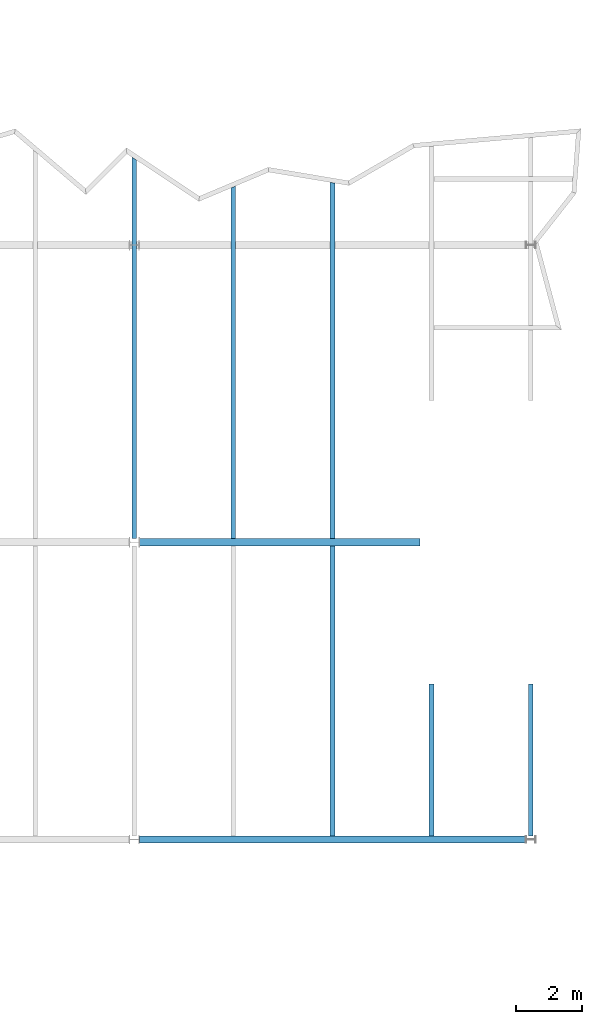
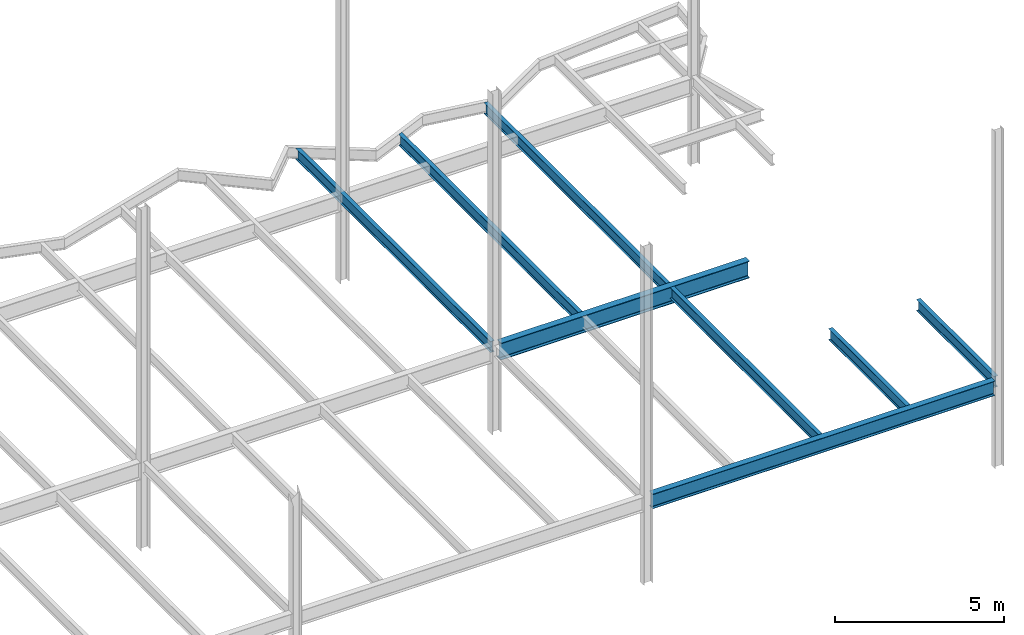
# One storey, part 23 of 26: 8 beams.
"""IFC2X3 building model written with IfcOpenShell, lengths in millimetres."""

from ifc_helpers import new_model, si_unit, origin, place, context, project, spatial, faceted_brep, material, element, save


model = new_model("IFC2X3")

# Units and contexts
context_of_model = context(None, 3, precision=1e-05, world=origin())
ifc_project = project(units=[si_unit("LENGTHUNIT", "METRE", prefix="MILLI")], contexts=[context_of_model])

# Building, storey
building = spatial("IfcBuilding", under=ifc_project, Name="Building", CompositionType="ELEMENT")
storey = spatial("IfcBuildingStorey", under=building, Name="FL4-FRM", CompositionType="ELEMENT")

# Beams
ifc_material_1 = material(Name="A992")
beam_1_placement = place(None, origin())
element("IfcBeam", 1, at=beam_1_placement, inside=storey, material=ifc_material_1, Name="B243", context=context_of_model, shape_type="Brep", body=[
    faceted_brep([(78070.0, 9104.5, 12974.0), (77930.0, 9104.5, 12974.0), (77930.0, 17885.5, 12974.0), (78070.0, 17885.5, 12974.0), (77930.0, 9104.5, 12982.8), (77930.0, 17885.5, 12982.8), (77986.6, 9104.5, 12982.8), (77986.6, 17885.5, 12982.8), (77989.2, 9104.5, 12983.1), (77989.2, 17885.5, 12983.1), (77991.7, 9104.5, 12984.2), (77991.7, 17885.5, 12984.2), (77993.8, 9104.5, 12985.8), (77993.8, 17885.5, 12985.8), (77995.4, 9104.5, 12987.9), (77995.4, 17885.5, 12987.9), (77996.5, 9104.5, 12990.4), (77996.5, 17885.5, 12990.4), (77996.8, 9104.5, 12993.0), (77996.8, 17885.5, 12993.0), (77996.8, 9104.5, 13354.0), (77996.8, 17885.5, 13354.0), (77996.5, 9104.5, 13356.6), (77996.5, 17885.5, 13356.6), (77995.4, 9104.5, 13359.1), (77995.4, 17885.5, 13359.1), (77993.8, 9104.5, 13361.2), (77993.8, 17885.5, 13361.2), (77991.7, 9104.5, 13362.8), (77991.7, 17885.5, 13362.8), (77989.2, 9104.5, 13363.9), (77989.2, 17885.5, 13363.9), (77986.6, 9104.5, 13364.2), (77986.6, 17885.5, 13364.2), (77930.0, 9104.5, 13364.2), (77930.0, 17885.5, 13364.2), (77930.0, 9104.5, 13373.0), (77930.0, 17885.5, 13373.0), (78070.0, 9104.5, 13373.0), (78070.0, 17885.5, 13373.0), (78070.0, 9104.5, 13364.2), (78070.0, 17885.5, 13364.2), (78013.4, 9104.5, 13364.2), (78013.4, 17885.5, 13364.2), (78010.8, 9104.5, 13363.9), (78010.8, 17885.5, 13363.9), (78008.3, 9104.5, 13362.8), (78008.3, 17885.5, 13362.8), (78006.2, 9104.5, 13361.2), (78006.2, 17885.5, 13361.2), (78004.6, 9104.5, 13359.1), (78004.6, 17885.5, 13359.1), (78003.5, 9104.5, 13356.6), (78003.5, 17885.5, 13356.6), (78003.2, 9104.5, 13354.0), (78003.2, 17885.5, 13354.0), (78003.2, 9104.5, 12993.0), (78003.2, 17885.5, 12993.0), (78003.5, 9104.5, 12990.4), (78003.5, 17885.5, 12990.4), (78004.6, 9104.5, 12987.9), (78004.6, 17885.5, 12987.9), (78006.2, 9104.5, 12985.8), (78006.2, 17885.5, 12985.8), (78008.3, 9104.5, 12984.2), (78008.3, 17885.5, 12984.2), (78010.8, 9104.5, 12983.1), (78010.8, 17885.5, 12983.1), (78013.4, 9104.5, 12982.8), (78013.4, 17885.5, 12982.8), (78070.0, 9104.5, 12982.8), (78070.0, 17885.5, 12982.8)], [[[0, 1, 2, 3]], [[1, 4, 5, 2]], [[4, 6, 7, 5]], [[6, 8, 9, 7]], [[8, 10, 11, 9]], [[10, 12, 13, 11]], [[12, 14, 15, 13]], [[14, 16, 17, 15]], [[16, 18, 19, 17]], [[18, 20, 21, 19]], [[20, 22, 23, 21]], [[22, 24, 25, 23]], [[24, 26, 27, 25]], [[26, 28, 29, 27]], [[28, 30, 31, 29]], [[30, 32, 33, 31]], [[32, 34, 35, 33]], [[34, 36, 37, 35]], [[36, 38, 39, 37]], [[38, 40, 41, 39]], [[40, 42, 43, 41]], [[42, 44, 45, 43]], [[44, 46, 47, 45]], [[46, 48, 49, 47]], [[48, 50, 51, 49]], [[50, 52, 53, 51]], [[52, 54, 55, 53]], [[54, 56, 57, 55]], [[56, 58, 59, 57]], [[58, 60, 61, 59]], [[60, 62, 63, 61]], [[62, 64, 65, 63]], [[64, 66, 67, 65]], [[66, 68, 69, 67]], [[68, 70, 71, 69]], [[70, 0, 3, 71]], [[0, 70, 68, 66, 64, 62, 60, 58, 56, 54, 52, 50, 48, 46, 44, 42, 40, 38, 36, 34, 32, 30, 28, 26, 24, 22, 20, 18, 16, 14, 12, 10, 8, 6, 4, 1]], [[3, 2, 5, 7, 9, 11, 13, 15, 17, 19, 21, 23, 25, 27, 29, 31, 33, 35, 37, 39, 41, 43, 45, 47, 49, 51, 53, 55, 57, 59, 61, 63, 65, 67, 69, 71]]]),
])
ifc_material_2 = material(Name="A992")
beam_2_placement = place(None, origin())
element("IfcBeam", 2, at=beam_2_placement, inside=storey, material=ifc_material_2, Name="Column398", context=context_of_model, shape_type="Brep", body=[
    faceted_brep([(72157.0, 17885.5, 12761.0), (72157.0, 18114.5, 12761.0), (80650.0, 18114.5, 12761.0), (80650.0, 17885.5, 12761.0), (72157.0, 18114.5, 12780.6), (80650.0, 18114.5, 12780.6), (72157.0, 18018.6, 12780.6), (80650.0, 18018.6, 12780.6), (72157.0, 18015.4, 12781.0), (80650.0, 18015.4, 12781.0), (72157.0, 18012.3, 12782.3), (80650.0, 18012.3, 12782.3), (72157.0, 18009.7, 12784.3), (80650.0, 18009.7, 12784.3), (72157.0, 18007.7, 12787.0), (80650.0, 18007.7, 12787.0), (72157.0, 18006.4, 12790.0), (80650.0, 18006.4, 12790.0), (72157.0, 18005.9, 12793.3), (80650.0, 18005.9, 12793.3), (72157.0, 18005.9, 13340.7), (80650.0, 18005.9, 13340.7), (72157.0, 18006.4, 13344.0), (80650.0, 18006.4, 13344.0), (72157.0, 18007.7, 13347.0), (80650.0, 18007.7, 13347.0), (72157.0, 18009.7, 13349.7), (80650.0, 18009.7, 13349.7), (72157.0, 18012.3, 13351.7), (80650.0, 18012.3, 13351.7), (72157.0, 18015.4, 13353.0), (80650.0, 18015.4, 13353.0), (72157.0, 18018.6, 13353.4), (80650.0, 18018.6, 13353.4), (72157.0, 18114.5, 13353.4), (80650.0, 18114.5, 13353.4), (72157.0, 18114.5, 13373.0), (80650.0, 18114.5, 13373.0), (72157.0, 17885.5, 13373.0), (80650.0, 17885.5, 13373.0), (72157.0, 17885.5, 13353.4), (80650.0, 17885.5, 13353.4), (72157.0, 17981.4, 13353.4), (80650.0, 17981.4, 13353.4), (72157.0, 17984.6, 13353.0), (80650.0, 17984.6, 13353.0), (72157.0, 17987.7, 13351.7), (80650.0, 17987.7, 13351.7), (72157.0, 17990.3, 13349.7), (80650.0, 17990.3, 13349.7), (72157.0, 17992.3, 13347.0), (80650.0, 17992.3, 13347.0), (72157.0, 17993.6, 13344.0), (80650.0, 17993.6, 13344.0), (72157.0, 17994.1, 13340.7), (80650.0, 17994.1, 13340.7), (72157.0, 17994.1, 12793.3), (80650.0, 17994.1, 12793.3), (72157.0, 17993.6, 12790.0), (80650.0, 17993.6, 12790.0), (72157.0, 17992.3, 12787.0), (80650.0, 17992.3, 12787.0), (72157.0, 17990.3, 12784.3), (80650.0, 17990.3, 12784.3), (72157.0, 17987.7, 12782.3), (80650.0, 17987.7, 12782.3), (72157.0, 17984.6, 12781.0), (80650.0, 17984.6, 12781.0), (72157.0, 17981.4, 12780.6), (80650.0, 17981.4, 12780.6), (72157.0, 17885.5, 12780.6), (80650.0, 17885.5, 12780.6)], [[[0, 1, 2, 3]], [[1, 4, 5, 2]], [[4, 6, 7, 5]], [[6, 8, 9, 7]], [[8, 10, 11, 9]], [[10, 12, 13, 11]], [[12, 14, 15, 13]], [[14, 16, 17, 15]], [[16, 18, 19, 17]], [[18, 20, 21, 19]], [[20, 22, 23, 21]], [[22, 24, 25, 23]], [[24, 26, 27, 25]], [[26, 28, 29, 27]], [[28, 30, 31, 29]], [[30, 32, 33, 31]], [[32, 34, 35, 33]], [[34, 36, 37, 35]], [[36, 38, 39, 37]], [[38, 40, 41, 39]], [[40, 42, 43, 41]], [[42, 44, 45, 43]], [[44, 46, 47, 45]], [[46, 48, 49, 47]], [[48, 50, 51, 49]], [[50, 52, 53, 51]], [[52, 54, 55, 53]], [[54, 56, 57, 55]], [[56, 58, 59, 57]], [[58, 60, 61, 59]], [[60, 62, 63, 61]], [[62, 64, 65, 63]], [[64, 66, 67, 65]], [[66, 68, 69, 67]], [[68, 70, 71, 69]], [[70, 0, 3, 71]], [[0, 70, 68, 66, 64, 62, 60, 58, 56, 54, 52, 50, 48, 46, 44, 42, 40, 38, 36, 34, 32, 30, 28, 26, 24, 22, 20, 18, 16, 14, 12, 10, 8, 6, 4, 1]], [[3, 2, 5, 7, 9, 11, 13, 15, 17, 19, 21, 23, 25, 27, 29, 31, 33, 35, 37, 39, 41, 43, 45, 47, 49, 51, 53, 55, 57, 59, 61, 63, 65, 67, 69, 71]]]),
])
ifc_material_3 = material(Name="A992")
beam_3_placement = place(None, origin())
element("IfcBeam", 3, at=beam_3_placement, inside=storey, material=ifc_material_3, Name="Column400", context=context_of_model, shape_type="Brep", body=[
    faceted_brep([(72153.0, 8895.5, 12845.0), (72153.0, 9104.5, 12845.0), (83848.5, 9104.5, 12845.0), (83848.5, 8895.5, 12845.0), (72153.0, 9104.5, 12858.3), (83848.5, 9104.5, 12858.3), (72153.0, 9017.45, 12858.3), (83848.5, 9017.45, 12858.3), (72153.0, 9014.16, 12858.7), (83848.5, 9014.16, 12858.7), (72153.0, 9011.1, 12860.0), (83848.5, 9011.1, 12860.0), (72153.0, 9008.47, 12862.0), (83848.5, 9008.47, 12862.0), (72153.0, 9006.45, 12864.7), (83848.5, 9006.45, 12864.7), (72153.0, 9005.18, 12867.7), (83848.5, 9005.18, 12867.7), (72153.0, 9004.75, 12871.0), (83848.5, 9004.75, 12871.0), (72153.0, 9004.75, 13347.0), (83848.5, 9004.75, 13347.0), (72153.0, 9005.18, 13350.3), (83848.5, 9005.18, 13350.3), (72153.0, 9006.45, 13353.3), (83848.5, 9006.45, 13353.3), (72153.0, 9008.47, 13356.0), (83848.5, 9008.47, 13356.0), (72153.0, 9011.1, 13358.0), (83848.5, 9011.1, 13358.0), (72153.0, 9014.16, 13359.3), (83848.5, 9014.16, 13359.3), (72153.0, 9017.45, 13359.7), (83848.5, 9017.45, 13359.7), (72153.0, 9104.5, 13359.7), (83848.5, 9104.5, 13359.7), (72153.0, 9104.5, 13373.0), (83848.5, 9104.5, 13373.0), (72153.0, 8895.5, 13373.0), (83848.5, 8895.5, 13373.0), (72153.0, 8895.5, 13359.7), (83848.5, 8895.5, 13359.7), (72153.0, 8982.55, 13359.7), (83848.5, 8982.55, 13359.7), (72153.0, 8985.84, 13359.3), (83848.5, 8985.84, 13359.3), (72153.0, 8988.9, 13358.0), (83848.5, 8988.9, 13358.0), (72153.0, 8991.53, 13356.0), (83848.5, 8991.53, 13356.0), (72153.0, 8993.55, 13353.3), (83848.5, 8993.55, 13353.3), (72153.0, 8994.82, 13350.3), (83848.5, 8994.82, 13350.3), (72153.0, 8995.25, 13347.0), (83848.5, 8995.25, 13347.0), (72153.0, 8995.25, 12871.0), (83848.5, 8995.25, 12871.0), (72153.0, 8994.82, 12867.7), (83848.5, 8994.82, 12867.7), (72153.0, 8993.55, 12864.7), (83848.5, 8993.55, 12864.7), (72153.0, 8991.53, 12862.0), (83848.5, 8991.53, 12862.0), (72153.0, 8988.9, 12860.0), (83848.5, 8988.9, 12860.0), (72153.0, 8985.84, 12858.7), (83848.5, 8985.84, 12858.7), (72153.0, 8982.55, 12858.3), (83848.5, 8982.55, 12858.3), (72153.0, 8895.5, 12858.3), (83848.5, 8895.5, 12858.3)], [[[0, 1, 2, 3]], [[1, 4, 5, 2]], [[4, 6, 7, 5]], [[6, 8, 9, 7]], [[8, 10, 11, 9]], [[10, 12, 13, 11]], [[12, 14, 15, 13]], [[14, 16, 17, 15]], [[16, 18, 19, 17]], [[18, 20, 21, 19]], [[20, 22, 23, 21]], [[22, 24, 25, 23]], [[24, 26, 27, 25]], [[26, 28, 29, 27]], [[28, 30, 31, 29]], [[30, 32, 33, 31]], [[32, 34, 35, 33]], [[34, 36, 37, 35]], [[36, 38, 39, 37]], [[38, 40, 41, 39]], [[40, 42, 43, 41]], [[42, 44, 45, 43]], [[44, 46, 47, 45]], [[46, 48, 49, 47]], [[48, 50, 51, 49]], [[50, 52, 53, 51]], [[52, 54, 55, 53]], [[54, 56, 57, 55]], [[56, 58, 59, 57]], [[58, 60, 61, 59]], [[60, 62, 63, 61]], [[62, 64, 65, 63]], [[64, 66, 67, 65]], [[66, 68, 69, 67]], [[68, 70, 71, 69]], [[70, 0, 3, 71]], [[0, 70, 68, 66, 64, 62, 60, 58, 56, 54, 52, 50, 48, 46, 44, 42, 40, 38, 36, 34, 32, 30, 28, 26, 24, 22, 20, 18, 16, 14, 12, 10, 8, 6, 4, 1]], [[3, 2, 5, 7, 9, 11, 13, 15, 17, 19, 21, 23, 25, 27, 29, 31, 33, 35, 37, 39, 41, 43, 45, 47, 49, 51, 53, 55, 57, 59, 61, 63, 65, 67, 69, 71]]]),
])
ifc_material_4 = material(Name="A992")
beam_4_placement = place(None, origin())
element("IfcBeam", 4, at=beam_4_placement, inside=storey, material=ifc_material_4, Name="B1015", context=context_of_model, shape_type="Brep", body=[
    faceted_brep([(77930.0, 28900.5, 12974.0), (78070.0, 28877.1, 12974.0), (78070.0, 18114.5, 12974.0), (77930.0, 18114.5, 12974.0), (78070.0, 28877.1, 12982.8), (78070.0, 18114.5, 12982.8), (78013.4, 28886.6, 12982.8), (78013.4, 18114.5, 12982.8), (78011.9, 28886.8, 12982.9), (78011.9, 18114.5, 12982.9), (78010.5, 28887.0, 12983.2), (78010.5, 18114.5, 12983.2), (78009.2, 28887.3, 12983.7), (78009.2, 18114.5, 12983.7), (78007.9, 28887.5, 12984.4), (78007.9, 18114.5, 12984.4), (78006.7, 28887.7, 12985.3), (78006.7, 18114.5, 12985.3), (78005.7, 28887.9, 12986.3), (78005.7, 18114.5, 12986.3), (78004.8, 28888.0, 12987.5), (78004.8, 18114.5, 12987.5), (78004.1, 28888.1, 12988.8), (78004.1, 18114.5, 12988.8), (78003.6, 28888.2, 12990.1), (78003.6, 18114.5, 12990.1), (78003.3, 28888.3, 12991.5), (78003.3, 18114.5, 12991.5), (78003.2, 28888.3, 12993.0), (78003.2, 18114.5, 12993.0), (78003.2, 28888.3, 13354.0), (78003.2, 18114.5, 13354.0), (78003.3, 28888.3, 13355.5), (78003.3, 18114.5, 13355.5), (78003.6, 28888.2, 13356.9), (78003.6, 18114.5, 13356.9), (78004.1, 28888.1, 13358.2), (78004.1, 18114.5, 13358.2), (78004.8, 28888.0, 13359.5), (78004.8, 18114.5, 13359.5), (78005.7, 28887.9, 13360.7), (78005.7, 18114.5, 13360.7), (78006.7, 28887.7, 13361.7), (78006.7, 18114.5, 13361.7), (78007.9, 28887.5, 13362.6), (78007.9, 18114.5, 13362.6), (78009.2, 28887.3, 13363.3), (78009.2, 18114.5, 13363.3), (78010.5, 28887.0, 13363.8), (78010.5, 18114.5, 13363.8), (78011.9, 28886.8, 13364.1), (78011.9, 18114.5, 13364.1), (78013.4, 28886.6, 13364.2), (78013.4, 18114.5, 13364.2), (78070.0, 28877.1, 13364.2), (78070.0, 18114.5, 13364.2), (78070.0, 28877.1, 13373.0), (78070.0, 18114.5, 13373.0), (77930.0, 28900.5, 13373.0), (77930.0, 18114.5, 13373.0), (77930.0, 28900.5, 13364.2), (77930.0, 18114.5, 13364.2), (77986.6, 28891.0, 13364.2), (77986.6, 18114.5, 13364.2), (77988.1, 28890.8, 13364.1), (77988.1, 18114.5, 13364.1), (77989.5, 28890.6, 13363.8), (77989.5, 18114.5, 13363.8), (77990.8, 28890.3, 13363.3), (77990.8, 18114.5, 13363.3), (77992.1, 28890.1, 13362.6), (77992.1, 18114.5, 13362.6), (77993.3, 28889.9, 13361.7), (77993.3, 18114.5, 13361.7), (77994.3, 28889.8, 13360.7), (77994.3, 18114.5, 13360.7), (77995.2, 28889.6, 13359.5), (77995.2, 18114.5, 13359.5), (77995.9, 28889.5, 13358.2), (77995.9, 18114.5, 13358.2), (77996.4, 28889.4, 13356.9), (77996.4, 18114.5, 13356.9), (77996.7, 28889.4, 13355.5), (77996.7, 18114.5, 13355.5), (77996.8, 28889.3, 13354.0), (77996.8, 18114.5, 13354.0), (77996.8, 28889.3, 12993.0), (77996.8, 18114.5, 12993.0), (77996.7, 28889.4, 12991.5), (77996.7, 18114.5, 12991.5), (77996.4, 28889.4, 12990.1), (77996.4, 18114.5, 12990.1), (77995.9, 28889.5, 12988.8), (77995.9, 18114.5, 12988.8), (77995.2, 28889.6, 12987.5), (77995.2, 18114.5, 12987.5), (77994.3, 28889.8, 12986.3), (77994.3, 18114.5, 12986.3), (77993.3, 28889.9, 12985.3), (77993.3, 18114.5, 12985.3), (77992.1, 28890.1, 12984.4), (77992.1, 18114.5, 12984.4), (77990.8, 28890.3, 12983.7), (77990.8, 18114.5, 12983.7), (77989.5, 28890.6, 12983.2), (77989.5, 18114.5, 12983.2), (77988.1, 28890.8, 12982.9), (77988.1, 18114.5, 12982.9), (77986.6, 28891.0, 12982.8), (77986.6, 18114.5, 12982.8), (77930.0, 28900.5, 12982.8), (77930.0, 18114.5, 12982.8)], [[[0, 1, 2, 3]], [[1, 4, 5, 2]], [[4, 6, 7, 5]], [[6, 8, 9, 7]], [[8, 10, 11, 9]], [[10, 12, 13, 11]], [[12, 14, 15, 13]], [[14, 16, 17, 15]], [[16, 18, 19, 17]], [[18, 20, 21, 19]], [[20, 22, 23, 21]], [[22, 24, 25, 23]], [[24, 26, 27, 25]], [[26, 28, 29, 27]], [[28, 30, 31, 29]], [[30, 32, 33, 31]], [[32, 34, 35, 33]], [[34, 36, 37, 35]], [[36, 38, 39, 37]], [[38, 40, 41, 39]], [[40, 42, 43, 41]], [[42, 44, 45, 43]], [[44, 46, 47, 45]], [[46, 48, 49, 47]], [[48, 50, 51, 49]], [[50, 52, 53, 51]], [[52, 54, 55, 53]], [[54, 56, 57, 55]], [[56, 58, 59, 57]], [[58, 60, 61, 59]], [[60, 62, 63, 61]], [[62, 64, 65, 63]], [[64, 66, 67, 65]], [[66, 68, 69, 67]], [[68, 70, 71, 69]], [[70, 72, 73, 71]], [[72, 74, 75, 73]], [[74, 76, 77, 75]], [[76, 78, 79, 77]], [[78, 80, 81, 79]], [[80, 82, 83, 81]], [[82, 84, 85, 83]], [[84, 86, 87, 85]], [[86, 88, 89, 87]], [[88, 90, 91, 89]], [[90, 92, 93, 91]], [[92, 94, 95, 93]], [[94, 96, 97, 95]], [[96, 98, 99, 97]], [[98, 100, 101, 99]], [[100, 102, 103, 101]], [[102, 104, 105, 103]], [[104, 106, 107, 105]], [[106, 108, 109, 107]], [[108, 110, 111, 109]], [[110, 0, 3, 111]], [[0, 110, 108, 106, 104, 102, 100, 98, 96, 94, 92, 90, 88, 86, 84, 82, 80, 78, 76, 74, 72, 70, 68, 66, 64, 62, 60, 58, 56, 54, 52, 50, 48, 46, 44, 42, 40, 38, 36, 34, 32, 30, 28, 26, 24, 22, 20, 18, 16, 14, 12, 10, 8, 6, 4, 1]], [[3, 2, 5, 7, 9, 11, 13, 15, 17, 19, 21, 23, 25, 27, 29, 31, 33, 35, 37, 39, 41, 43, 45, 47, 49, 51, 53, 55, 57, 59, 61, 63, 65, 67, 69, 71, 73, 75, 77, 79, 81, 83, 85, 87, 89, 91, 93, 95, 97, 99, 101, 103, 105, 107, 109, 111]]]),
])
ifc_material_5 = material(Name="A992")
beam_5_placement = place(None, origin())
element("IfcBeam", 5, at=beam_5_placement, inside=storey, material=ifc_material_5, Name="B1016", context=context_of_model, shape_type="Brep", body=[
    faceted_brep([(74930.0, 28731.0, 12974.0), (75070.0, 28790.0, 12974.0), (75070.0, 18114.5, 12974.0), (74930.0, 18114.5, 12974.0), (75070.0, 28790.0, 12982.8), (75070.0, 18114.5, 12982.8), (75013.4, 28766.1, 12982.8), (75013.4, 18114.5, 12982.8), (75012.0, 28765.5, 12982.9), (75011.9, 18114.5, 12982.9), (75010.5, 28764.9, 12983.2), (75010.5, 18114.5, 12983.2), (75009.2, 28764.3, 12983.7), (75009.2, 18114.5, 12983.7), (75007.9, 28763.8, 12984.4), (75007.9, 18114.5, 12984.4), (75006.7, 28763.3, 12985.3), (75006.7, 18114.5, 12985.3), (75005.7, 28762.9, 12986.3), (75005.7, 18114.5, 12986.3), (75004.8, 28762.5, 12987.5), (75004.8, 18114.5, 12987.5), (75004.1, 28762.2, 12988.8), (75004.1, 18114.5, 12988.8), (75003.6, 28762.0, 12990.1), (75003.6, 18114.5, 12990.1), (75003.3, 28761.9, 12991.5), (75003.3, 18114.5, 12991.5), (75003.2, 28761.8, 12993.0), (75003.2, 18114.5, 12993.0), (75003.2, 28761.8, 13354.0), (75003.2, 18114.5, 13354.0), (75003.3, 28761.9, 13355.5), (75003.3, 18114.5, 13355.5), (75003.6, 28762.0, 13356.9), (75003.6, 18114.5, 13356.9), (75004.1, 28762.2, 13358.2), (75004.1, 18114.5, 13358.2), (75004.8, 28762.5, 13359.5), (75004.8, 18114.5, 13359.5), (75005.7, 28762.9, 13360.7), (75005.7, 18114.5, 13360.7), (75006.7, 28763.3, 13361.7), (75006.7, 18114.5, 13361.7), (75007.9, 28763.8, 13362.6), (75007.9, 18114.5, 13362.6), (75009.2, 28764.3, 13363.3), (75009.2, 18114.5, 13363.3), (75010.5, 28764.9, 13363.8), (75010.5, 18114.5, 13363.8), (75012.0, 28765.5, 13364.1), (75011.9, 18114.5, 13364.1), (75013.4, 28766.1, 13364.2), (75013.4, 18114.5, 13364.2), (75070.0, 28790.0, 13364.2), (75070.0, 18114.5, 13364.2), (75070.0, 28790.0, 13373.0), (75070.0, 18114.5, 13373.0), (74930.0, 28731.0, 13373.0), (74930.0, 18114.5, 13373.0), (74930.0, 28731.0, 13364.2), (74930.0, 18114.5, 13364.2), (74986.6, 28754.8, 13364.2), (74986.6, 18114.5, 13364.2), (74988.0, 28755.4, 13364.1), (74988.1, 18114.5, 13364.1), (74989.5, 28756.0, 13363.8), (74989.5, 18114.5, 13363.8), (74990.8, 28756.6, 13363.3), (74990.8, 18114.5, 13363.3), (74992.1, 28757.2, 13362.6), (74992.1, 18114.5, 13362.6), (74993.3, 28757.6, 13361.7), (74993.3, 18114.5, 13361.7), (74994.3, 28758.1, 13360.7), (74994.3, 18114.5, 13360.7), (74995.2, 28758.4, 13359.5), (74995.2, 18114.5, 13359.5), (74995.9, 28758.7, 13358.2), (74995.9, 18114.5, 13358.2), (74996.4, 28759.0, 13356.9), (74996.4, 18114.5, 13356.9), (74996.7, 28759.1, 13355.5), (74996.7, 18114.5, 13355.5), (74996.8, 28759.1, 13354.0), (74996.8, 18114.5, 13354.0), (74996.8, 28759.1, 12993.0), (74996.8, 18114.5, 12993.0), (74996.7, 28759.1, 12991.5), (74996.7, 18114.5, 12991.5), (74996.4, 28759.0, 12990.1), (74996.4, 18114.5, 12990.1), (74995.9, 28758.7, 12988.8), (74995.9, 18114.5, 12988.8), (74995.2, 28758.4, 12987.5), (74995.2, 18114.5, 12987.5), (74994.3, 28758.1, 12986.3), (74994.3, 18114.5, 12986.3), (74993.3, 28757.6, 12985.3), (74993.3, 18114.5, 12985.3), (74992.1, 28757.2, 12984.4), (74992.1, 18114.5, 12984.4), (74990.8, 28756.6, 12983.7), (74990.8, 18114.5, 12983.7), (74989.5, 28756.0, 12983.2), (74989.5, 18114.5, 12983.2), (74988.0, 28755.4, 12982.9), (74988.1, 18114.5, 12982.9), (74986.6, 28754.8, 12982.8), (74986.6, 18114.5, 12982.8), (74930.0, 28731.0, 12982.8), (74930.0, 18114.5, 12982.8)], [[[0, 1, 2, 3]], [[1, 4, 5, 2]], [[4, 6, 7, 5]], [[6, 8, 9, 7]], [[8, 10, 11, 9]], [[10, 12, 13, 11]], [[12, 14, 15, 13]], [[14, 16, 17, 15]], [[16, 18, 19, 17]], [[18, 20, 21, 19]], [[20, 22, 23, 21]], [[22, 24, 25, 23]], [[24, 26, 27, 25]], [[26, 28, 29, 27]], [[28, 30, 31, 29]], [[30, 32, 33, 31]], [[32, 34, 35, 33]], [[34, 36, 37, 35]], [[36, 38, 39, 37]], [[38, 40, 41, 39]], [[40, 42, 43, 41]], [[42, 44, 45, 43]], [[44, 46, 47, 45]], [[46, 48, 49, 47]], [[48, 50, 51, 49]], [[50, 52, 53, 51]], [[52, 54, 55, 53]], [[54, 56, 57, 55]], [[56, 58, 59, 57]], [[58, 60, 61, 59]], [[60, 62, 63, 61]], [[62, 64, 65, 63]], [[64, 66, 67, 65]], [[66, 68, 69, 67]], [[68, 70, 71, 69]], [[70, 72, 73, 71]], [[72, 74, 75, 73]], [[74, 76, 77, 75]], [[76, 78, 79, 77]], [[78, 80, 81, 79]], [[80, 82, 83, 81]], [[82, 84, 85, 83]], [[84, 86, 87, 85]], [[86, 88, 89, 87]], [[88, 90, 91, 89]], [[90, 92, 93, 91]], [[92, 94, 95, 93]], [[94, 96, 97, 95]], [[96, 98, 99, 97]], [[98, 100, 101, 99]], [[100, 102, 103, 101]], [[102, 104, 105, 103]], [[104, 106, 107, 105]], [[106, 108, 109, 107]], [[108, 110, 111, 109]], [[110, 0, 3, 111]], [[0, 110, 108, 106, 104, 102, 100, 98, 96, 94, 92, 90, 88, 86, 84, 82, 80, 78, 76, 74, 72, 70, 68, 66, 64, 62, 60, 58, 56, 54, 52, 50, 48, 46, 44, 42, 40, 38, 36, 34, 32, 30, 28, 26, 24, 22, 20, 18, 16, 14, 12, 10, 8, 6, 4, 1]], [[3, 2, 5, 7, 9, 11, 13, 15, 17, 19, 21, 23, 25, 27, 29, 31, 33, 35, 37, 39, 41, 43, 45, 47, 49, 51, 53, 55, 57, 59, 61, 63, 65, 67, 69, 71, 73, 75, 77, 79, 81, 83, 85, 87, 89, 91, 93, 95, 97, 99, 101, 103, 105, 107, 109, 111]]]),
])
ifc_material_6 = material(Name="A992")
beam_6_placement = place(None, origin())
element("IfcBeam", 6, at=beam_6_placement, inside=storey, material=ifc_material_6, Name="B1019", context=context_of_model, shape_type="Brep", body=[
    faceted_brep([(71930.0, 29663.5, 12974.0), (72070.0, 29570.7, 12974.0), (72070.0, 18114.5, 12974.0), (71930.0, 18114.5, 12974.0), (72070.0, 29570.7, 12982.8), (72070.0, 18114.5, 12982.8), (72013.4, 29608.2, 12982.8), (72013.4, 18114.5, 12982.8), (72012.0, 29609.2, 12982.9), (72011.9, 18114.5, 12982.9), (72010.5, 29610.1, 12983.2), (72010.5, 18114.5, 12983.2), (72009.2, 29611.0, 12983.7), (72009.2, 18114.5, 12983.7), (72007.9, 29611.8, 12984.4), (72007.9, 18114.5, 12984.4), (72006.7, 29612.6, 12985.3), (72006.7, 18114.5, 12985.3), (72005.7, 29613.3, 12986.3), (72005.7, 18114.5, 12986.3), (72004.8, 29613.9, 12987.5), (72004.8, 18114.5, 12987.5), (72004.1, 29614.3, 12988.8), (72004.1, 18114.5, 12988.8), (72003.6, 29614.7, 12990.1), (72003.6, 18114.5, 12990.1), (72003.3, 29614.9, 12991.5), (72003.3, 18114.5, 12991.5), (72003.2, 29615.0, 12993.0), (72003.2, 18114.5, 12993.0), (72003.2, 29615.0, 13354.0), (72003.2, 18114.5, 13354.0), (72003.3, 29614.9, 13355.5), (72003.3, 18114.5, 13355.5), (72003.6, 29614.7, 13356.9), (72003.6, 18114.5, 13356.9), (72004.1, 29614.3, 13358.2), (72004.1, 18114.5, 13358.2), (72004.8, 29613.9, 13359.5), (72004.8, 18114.5, 13359.5), (72005.7, 29613.3, 13360.7), (72005.7, 18114.5, 13360.7), (72006.7, 29612.6, 13361.7), (72006.7, 18114.5, 13361.7), (72007.9, 29611.8, 13362.6), (72007.9, 18114.5, 13362.6), (72009.2, 29611.0, 13363.3), (72009.2, 18114.5, 13363.3), (72010.5, 29610.1, 13363.8), (72010.5, 18114.5, 13363.8), (72012.0, 29609.2, 13364.1), (72011.9, 18114.5, 13364.1), (72013.4, 29608.2, 13364.2), (72013.4, 18114.5, 13364.2), (72070.0, 29570.7, 13364.2), (72070.0, 18114.5, 13364.2), (72070.0, 29570.7, 13373.0), (72070.0, 18114.5, 13373.0), (71930.0, 29663.5, 13373.0), (71930.0, 18114.5, 13373.0), (71930.0, 29663.5, 13364.2), (71930.0, 18114.5, 13364.2), (71986.6, 29626.0, 13364.2), (71986.6, 18114.5, 13364.2), (71988.0, 29625.0, 13364.1), (71988.1, 18114.5, 13364.1), (71989.5, 29624.1, 13363.8), (71989.5, 18114.5, 13363.8), (71990.8, 29623.2, 13363.3), (71990.8, 18114.5, 13363.3), (71992.1, 29622.3, 13362.6), (71992.1, 18114.5, 13362.6), (71993.3, 29621.5, 13361.7), (71993.3, 18114.5, 13361.7), (71994.3, 29620.9, 13360.7), (71994.3, 18114.5, 13360.7), (71995.2, 29620.3, 13359.5), (71995.2, 18114.5, 13359.5), (71995.9, 29619.8, 13358.2), (71995.9, 18114.5, 13358.2), (71996.4, 29619.5, 13356.9), (71996.4, 18114.5, 13356.9), (71996.7, 29619.3, 13355.5), (71996.7, 18114.5, 13355.5), (71996.8, 29619.2, 13354.0), (71996.8, 18114.5, 13354.0), (71996.8, 29619.2, 12993.0), (71996.8, 18114.5, 12993.0), (71996.7, 29619.3, 12991.5), (71996.7, 18114.5, 12991.5), (71996.4, 29619.5, 12990.1), (71996.4, 18114.5, 12990.1), (71995.9, 29619.8, 12988.8), (71995.9, 18114.5, 12988.8), (71995.2, 29620.3, 12987.5), (71995.2, 18114.5, 12987.5), (71994.3, 29620.9, 12986.3), (71994.3, 18114.5, 12986.3), (71993.3, 29621.5, 12985.3), (71993.3, 18114.5, 12985.3), (71992.1, 29622.3, 12984.4), (71992.1, 18114.5, 12984.4), (71990.8, 29623.2, 12983.7), (71990.8, 18114.5, 12983.7), (71989.5, 29624.1, 12983.2), (71989.5, 18114.5, 12983.2), (71988.0, 29625.0, 12982.9), (71988.1, 18114.5, 12982.9), (71986.6, 29626.0, 12982.8), (71986.6, 18114.5, 12982.8), (71930.0, 29663.5, 12982.8), (71930.0, 18114.5, 12982.8)], [[[0, 1, 2, 3]], [[1, 4, 5, 2]], [[4, 6, 7, 5]], [[6, 8, 9, 7]], [[8, 10, 11, 9]], [[10, 12, 13, 11]], [[12, 14, 15, 13]], [[14, 16, 17, 15]], [[16, 18, 19, 17]], [[18, 20, 21, 19]], [[20, 22, 23, 21]], [[22, 24, 25, 23]], [[24, 26, 27, 25]], [[26, 28, 29, 27]], [[28, 30, 31, 29]], [[30, 32, 33, 31]], [[32, 34, 35, 33]], [[34, 36, 37, 35]], [[36, 38, 39, 37]], [[38, 40, 41, 39]], [[40, 42, 43, 41]], [[42, 44, 45, 43]], [[44, 46, 47, 45]], [[46, 48, 49, 47]], [[48, 50, 51, 49]], [[50, 52, 53, 51]], [[52, 54, 55, 53]], [[54, 56, 57, 55]], [[56, 58, 59, 57]], [[58, 60, 61, 59]], [[60, 62, 63, 61]], [[62, 64, 65, 63]], [[64, 66, 67, 65]], [[66, 68, 69, 67]], [[68, 70, 71, 69]], [[70, 72, 73, 71]], [[72, 74, 75, 73]], [[74, 76, 77, 75]], [[76, 78, 79, 77]], [[78, 80, 81, 79]], [[80, 82, 83, 81]], [[82, 84, 85, 83]], [[84, 86, 87, 85]], [[86, 88, 89, 87]], [[88, 90, 91, 89]], [[90, 92, 93, 91]], [[92, 94, 95, 93]], [[94, 96, 97, 95]], [[96, 98, 99, 97]], [[98, 100, 101, 99]], [[100, 102, 103, 101]], [[102, 104, 105, 103]], [[104, 106, 107, 105]], [[106, 108, 109, 107]], [[108, 110, 111, 109]], [[110, 0, 3, 111]], [[0, 110, 108, 106, 104, 102, 100, 98, 96, 94, 92, 90, 88, 86, 84, 82, 80, 78, 76, 74, 72, 70, 68, 66, 64, 62, 60, 58, 56, 54, 52, 50, 48, 46, 44, 42, 40, 38, 36, 34, 32, 30, 28, 26, 24, 22, 20, 18, 16, 14, 12, 10, 8, 6, 4, 1]], [[3, 2, 5, 7, 9, 11, 13, 15, 17, 19, 21, 23, 25, 27, 29, 31, 33, 35, 37, 39, 41, 43, 45, 47, 49, 51, 53, 55, 57, 59, 61, 63, 65, 67, 69, 71, 73, 75, 77, 79, 81, 83, 85, 87, 89, 91, 93, 95, 97, 99, 101, 103, 105, 107, 109, 111]]]),
])
ifc_material_7 = material(Name="A992")
beam_7_placement = place(None, origin())
element("IfcBeam", 7, at=beam_7_placement, inside=storey, material=ifc_material_7, Name="B1031", context=context_of_model, shape_type="Brep", body=[
    faceted_brep([(81070.0, 9104.5, 12974.0), (80930.0, 9104.5, 12974.0), (80930.0, 13700.0, 12974.0), (81070.0, 13700.0, 12974.0), (80930.0, 9104.5, 12982.8), (80930.0, 13700.0, 12982.8), (80986.6, 9104.5, 12982.8), (80986.6, 13700.0, 12982.8), (80989.2, 9104.5, 12983.1), (80989.2, 13700.0, 12983.1), (80991.7, 9104.5, 12984.2), (80991.7, 13700.0, 12984.2), (80993.8, 9104.5, 12985.8), (80993.8, 13700.0, 12985.8), (80995.4, 9104.5, 12987.9), (80995.4, 13700.0, 12987.9), (80996.5, 9104.5, 12990.4), (80996.5, 13700.0, 12990.4), (80996.8, 9104.5, 12993.0), (80996.8, 13700.0, 12993.0), (80996.8, 9104.5, 13354.0), (80996.8, 13700.0, 13354.0), (80996.5, 9104.5, 13356.6), (80996.5, 13700.0, 13356.6), (80995.4, 9104.5, 13359.1), (80995.4, 13700.0, 13359.1), (80993.8, 9104.5, 13361.2), (80993.8, 13700.0, 13361.2), (80991.7, 9104.5, 13362.8), (80991.7, 13700.0, 13362.8), (80989.2, 9104.5, 13363.9), (80989.2, 13700.0, 13363.9), (80986.6, 9104.5, 13364.2), (80986.6, 13700.0, 13364.2), (80930.0, 9104.5, 13364.2), (80930.0, 13700.0, 13364.2), (80930.0, 9104.5, 13373.0), (80930.0, 13700.0, 13373.0), (81070.0, 9104.5, 13373.0), (81070.0, 13700.0, 13373.0), (81070.0, 9104.5, 13364.2), (81070.0, 13700.0, 13364.2), (81013.4, 9104.5, 13364.2), (81013.4, 13700.0, 13364.2), (81010.8, 9104.5, 13363.9), (81010.8, 13700.0, 13363.9), (81008.3, 9104.5, 13362.8), (81008.3, 13700.0, 13362.8), (81006.2, 9104.5, 13361.2), (81006.2, 13700.0, 13361.2), (81004.6, 9104.5, 13359.1), (81004.6, 13700.0, 13359.1), (81003.5, 9104.5, 13356.6), (81003.5, 13700.0, 13356.6), (81003.2, 9104.5, 13354.0), (81003.2, 13700.0, 13354.0), (81003.2, 9104.5, 12993.0), (81003.2, 13700.0, 12993.0), (81003.5, 9104.5, 12990.4), (81003.5, 13700.0, 12990.4), (81004.6, 9104.5, 12987.9), (81004.6, 13700.0, 12987.9), (81006.2, 9104.5, 12985.8), (81006.2, 13700.0, 12985.8), (81008.3, 9104.5, 12984.2), (81008.3, 13700.0, 12984.2), (81010.8, 9104.5, 12983.1), (81010.8, 13700.0, 12983.1), (81013.4, 9104.5, 12982.8), (81013.4, 13700.0, 12982.8), (81070.0, 9104.5, 12982.8), (81070.0, 13700.0, 12982.8)], [[[0, 1, 2, 3]], [[1, 4, 5, 2]], [[4, 6, 7, 5]], [[6, 8, 9, 7]], [[8, 10, 11, 9]], [[10, 12, 13, 11]], [[12, 14, 15, 13]], [[14, 16, 17, 15]], [[16, 18, 19, 17]], [[18, 20, 21, 19]], [[20, 22, 23, 21]], [[22, 24, 25, 23]], [[24, 26, 27, 25]], [[26, 28, 29, 27]], [[28, 30, 31, 29]], [[30, 32, 33, 31]], [[32, 34, 35, 33]], [[34, 36, 37, 35]], [[36, 38, 39, 37]], [[38, 40, 41, 39]], [[40, 42, 43, 41]], [[42, 44, 45, 43]], [[44, 46, 47, 45]], [[46, 48, 49, 47]], [[48, 50, 51, 49]], [[50, 52, 53, 51]], [[52, 54, 55, 53]], [[54, 56, 57, 55]], [[56, 58, 59, 57]], [[58, 60, 61, 59]], [[60, 62, 63, 61]], [[62, 64, 65, 63]], [[64, 66, 67, 65]], [[66, 68, 69, 67]], [[68, 70, 71, 69]], [[70, 0, 3, 71]], [[0, 70, 68, 66, 64, 62, 60, 58, 56, 54, 52, 50, 48, 46, 44, 42, 40, 38, 36, 34, 32, 30, 28, 26, 24, 22, 20, 18, 16, 14, 12, 10, 8, 6, 4, 1]], [[3, 2, 5, 7, 9, 11, 13, 15, 17, 19, 21, 23, 25, 27, 29, 31, 33, 35, 37, 39, 41, 43, 45, 47, 49, 51, 53, 55, 57, 59, 61, 63, 65, 67, 69, 71]]]),
])
ifc_material_8 = material(Name="A992")
beam_8_placement = place(None, origin())
element("IfcBeam", 8, at=beam_8_placement, inside=storey, material=ifc_material_8, Name="B1032", context=context_of_model, shape_type="Brep", body=[
    faceted_brep([(84070.0, 9104.5, 12974.0), (83930.0, 9104.5, 12974.0), (83930.0, 13700.0, 12974.0), (84070.0, 13700.0, 12974.0), (83930.0, 9104.5, 12982.8), (83930.0, 13700.0, 12982.8), (83986.6, 9104.5, 12982.8), (83986.6, 13700.0, 12982.8), (83989.2, 9104.5, 12983.1), (83989.2, 13700.0, 12983.1), (83991.7, 9104.5, 12984.2), (83991.7, 13700.0, 12984.2), (83993.8, 9104.5, 12985.8), (83993.8, 13700.0, 12985.8), (83995.4, 9104.5, 12987.9), (83995.4, 13700.0, 12987.9), (83996.5, 9104.5, 12990.4), (83996.5, 13700.0, 12990.4), (83996.8, 9104.5, 12993.0), (83996.8, 13700.0, 12993.0), (83996.8, 9104.5, 13354.0), (83996.8, 13700.0, 13354.0), (83996.5, 9104.5, 13356.6), (83996.5, 13700.0, 13356.6), (83995.4, 9104.5, 13359.1), (83995.4, 13700.0, 13359.1), (83993.8, 9104.5, 13361.2), (83993.8, 13700.0, 13361.2), (83991.7, 9104.5, 13362.8), (83991.7, 13700.0, 13362.8), (83989.2, 9104.5, 13363.9), (83989.2, 13700.0, 13363.9), (83986.6, 9104.5, 13364.2), (83986.6, 13700.0, 13364.2), (83930.0, 9104.5, 13364.2), (83930.0, 13700.0, 13364.2), (83930.0, 9104.5, 13373.0), (83930.0, 13700.0, 13373.0), (84070.0, 9104.5, 13373.0), (84070.0, 13700.0, 13373.0), (84070.0, 9104.5, 13364.2), (84070.0, 13700.0, 13364.2), (84013.4, 9104.5, 13364.2), (84013.4, 13700.0, 13364.2), (84010.8, 9104.5, 13363.9), (84010.8, 13700.0, 13363.9), (84008.3, 9104.5, 13362.8), (84008.3, 13700.0, 13362.8), (84006.2, 9104.5, 13361.2), (84006.2, 13700.0, 13361.2), (84004.6, 9104.5, 13359.1), (84004.6, 13700.0, 13359.1), (84003.5, 9104.5, 13356.6), (84003.5, 13700.0, 13356.6), (84003.2, 9104.5, 13354.0), (84003.2, 13700.0, 13354.0), (84003.2, 9104.5, 12993.0), (84003.2, 13700.0, 12993.0), (84003.5, 9104.5, 12990.4), (84003.5, 13700.0, 12990.4), (84004.6, 9104.5, 12987.9), (84004.6, 13700.0, 12987.9), (84006.2, 9104.5, 12985.8), (84006.2, 13700.0, 12985.8), (84008.3, 9104.5, 12984.2), (84008.3, 13700.0, 12984.2), (84010.8, 9104.5, 12983.1), (84010.8, 13700.0, 12983.1), (84013.4, 9104.5, 12982.8), (84013.4, 13700.0, 12982.8), (84070.0, 9104.5, 12982.8), (84070.0, 13700.0, 12982.8)], [[[0, 1, 2, 3]], [[1, 4, 5, 2]], [[4, 6, 7, 5]], [[6, 8, 9, 7]], [[8, 10, 11, 9]], [[10, 12, 13, 11]], [[12, 14, 15, 13]], [[14, 16, 17, 15]], [[16, 18, 19, 17]], [[18, 20, 21, 19]], [[20, 22, 23, 21]], [[22, 24, 25, 23]], [[24, 26, 27, 25]], [[26, 28, 29, 27]], [[28, 30, 31, 29]], [[30, 32, 33, 31]], [[32, 34, 35, 33]], [[34, 36, 37, 35]], [[36, 38, 39, 37]], [[38, 40, 41, 39]], [[40, 42, 43, 41]], [[42, 44, 45, 43]], [[44, 46, 47, 45]], [[46, 48, 49, 47]], [[48, 50, 51, 49]], [[50, 52, 53, 51]], [[52, 54, 55, 53]], [[54, 56, 57, 55]], [[56, 58, 59, 57]], [[58, 60, 61, 59]], [[60, 62, 63, 61]], [[62, 64, 65, 63]], [[64, 66, 67, 65]], [[66, 68, 69, 67]], [[68, 70, 71, 69]], [[70, 0, 3, 71]], [[0, 70, 68, 66, 64, 62, 60, 58, 56, 54, 52, 50, 48, 46, 44, 42, 40, 38, 36, 34, 32, 30, 28, 26, 24, 22, 20, 18, 16, 14, 12, 10, 8, 6, 4, 1]], [[3, 2, 5, 7, 9, 11, 13, 15, 17, 19, 21, 23, 25, 27, 29, 31, 33, 35, 37, 39, 41, 43, 45, 47, 49, 51, 53, 55, 57, 59, 61, 63, 65, 67, 69, 71]]]),
])

save(model, "model.ifc")
